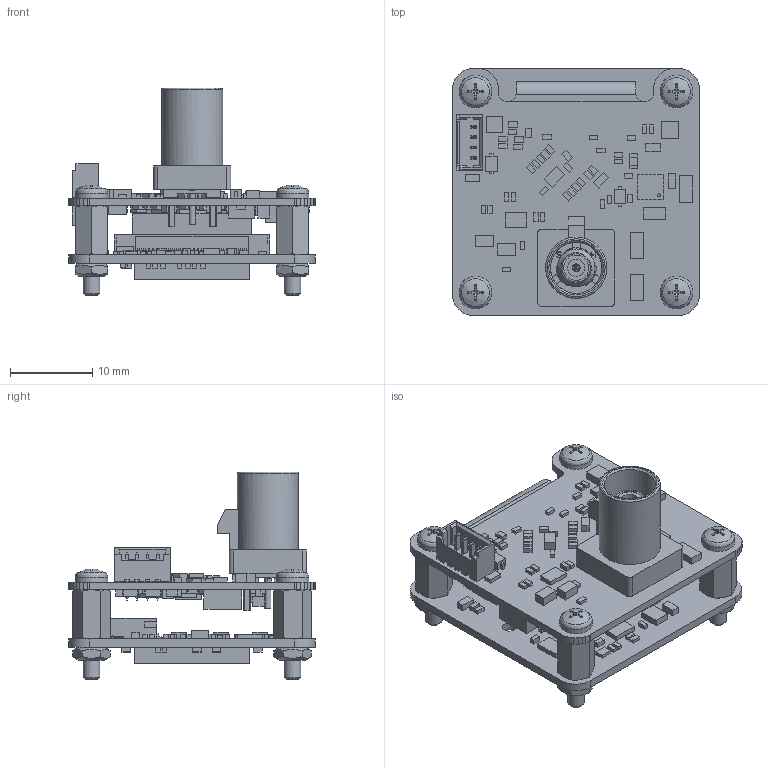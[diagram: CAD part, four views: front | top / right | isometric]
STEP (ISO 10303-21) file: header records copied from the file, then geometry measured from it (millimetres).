
FILE_DESCRIPTION(/* description */ ('289-20-2-11-00'),/* implementation_level */ '2;1');
FILE_NAME(/* name */ 'D:\HiDrive\1_Konstruktion\1_KUNDEN\TIS\289-20_MIPI-Dokumentation\289-20-2-11-00_CX-R120_IMX296-R100.stp',/* time_stamp */ '2020-12-17T08:43:46+01:00',/* author */ ('Westermann'),/* organization */ ('TIS, Bremen-Germany'),/* preprocessor_version */ 'ST-DEVELOPER v16.5',/* originating_system */ 'Autodesk Inventor 2017',/* authorisation */ '');
FILE_SCHEMA (('AUTOMOTIVE_DESIGN { 1 0 10303 214 3 1 1 }'));
Length unit declared in the file: millimetre
Products named in the file (6): 289-20-2-11-00_CX-R120_IMX296-R100; ISO 4032 - M2; ISO 7045 - M2 x 4 - 4.8 - H; IMX296_MIPI_HB_R1_00; TISMIPI_SER953_R1-20; Distanzbolzen-IA-M2x6_0100018_SIBALCO
Assembly tree (14 placements, depth 2):
  289-20-2-11-00_CX-R120_IMX296-R100
    ISO 4032 - M2  x4
    ISO 7045 - M2 x 4 - 4.8 - H  x4
    IMX296_MIPI_HB_R1_00
    TISMIPI_SER953_R1-20
    Distanzbolzen-IA-M2x6_0100018_SIBALCO  x4
Bounding box: 30.1 x 30.1 x 25.34 mm (x, y, z)
Volume: 3589.7 mm3; surface area: 7791.4 mm2
Topology: 17 solids, 19 shells, 3570 faces, 9650 edges, 6277 vertices
Faces by surface type: plane 3105, cylinder 294, cone 138, torus 29, sphere 4
Full cylindrical faces by diameter (mm): 0.388 x1, 0.5 x5, 0.613 x1, 0.75 x1, 0.95 x2, 1.2 x1, 1.4 x4, 1.567 x8, 1.7 x2, 1.783 x4, 2 x8, 2.08 x1, 2.1 x8, 3.05 x2, 3.2 x1, 3.68 x1, 3.8 x1, 4.35 x1, 4.6 x1, 6.25 x1, 7.45 x1
Entity records: 107580 total; most frequent: CARTESIAN_POINT 18561, ORIENTED_EDGE 18154, DIRECTION 16445, EDGE_CURVE 9077, LINE 8337, VECTOR 8337, VERTEX_POINT 5956, AXIS2_PLACEMENT_3D 4054
